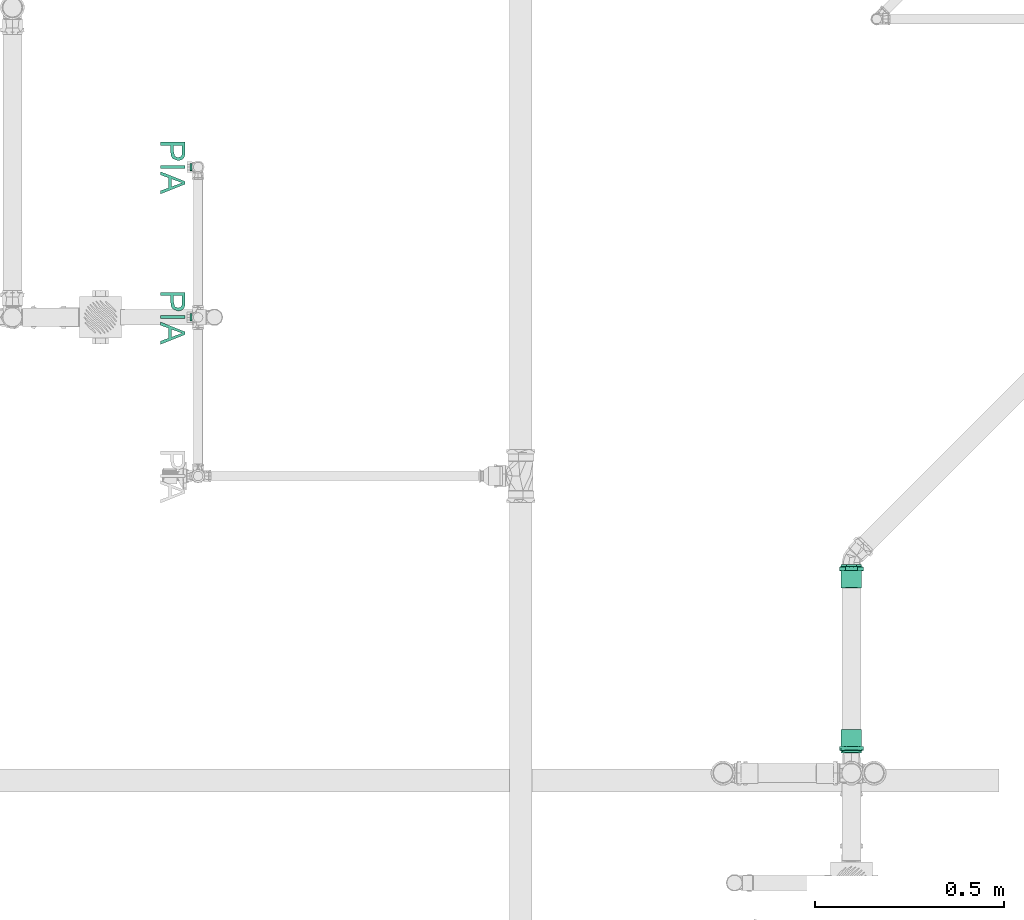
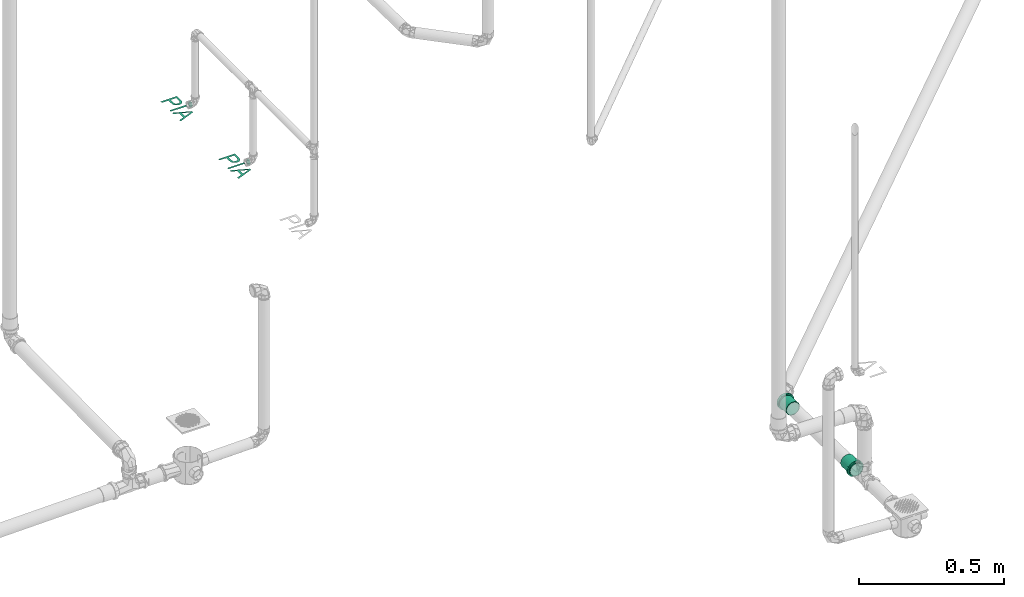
# One storey, part 128 of 589: 2 flow fittings, 2 flow terminals.
"""IFC2X3 building model written with IfcOpenShell, lengths in millimetres."""

from ifc_helpers import new_model, entity, si_unit, converted_unit, derived_unit, direction, frame, origin, place, context, subcontext, project, spatial, face_set, faceted_brep, surface_model, source, transform, mapped, material, type_object, type_shapes, element, save


model = new_model("IFC2X3")

# Units and contexts
model_context = context("Model", 3, precision=0.01, world=origin(), true_north=direction((6.123031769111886e-17, 1.0)))
body_context = subcontext(model_context, "Body", "Model", "MODEL_VIEW")
ifc_project = project(units=[si_unit("LENGTHUNIT", "METRE", prefix="MILLI"), si_unit("AREAUNIT", "SQUARE_METRE"), si_unit("VOLUMEUNIT", "CUBIC_METRE"), converted_unit("PLANEANGLEUNIT", "DEGREE", entity("IfcRatioMeasure", 0.017453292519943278), si_unit("PLANEANGLEUNIT", "RADIAN"), dimensions=[0, 0, 0, 0, 0, 0, 0]), si_unit("MASSUNIT", "GRAM", prefix="KILO"), derived_unit("MASSDENSITYUNIT", [(si_unit("MASSUNIT", "GRAM", prefix="KILO"), 1), (si_unit("LENGTHUNIT", "METRE"), -3)]), derived_unit("IONCONCENTRATIONUNIT", [(si_unit("MASSUNIT", "GRAM", prefix="KILO"), 1), (si_unit("LENGTHUNIT", "METRE"), -3)]), derived_unit("MOMENTOFINERTIAUNIT", [(si_unit("LENGTHUNIT", "METRE"), 4)]), si_unit("TIMEUNIT", "SECOND"), si_unit("FREQUENCYUNIT", "HERTZ"), si_unit("THERMODYNAMICTEMPERATUREUNIT", "DEGREE_CELSIUS"), derived_unit("THERMALTRANSMITTANCEUNIT", [(si_unit("MASSUNIT", "GRAM", prefix="KILO"), 1), (si_unit("THERMODYNAMICTEMPERATUREUNIT", "KELVIN"), -1), (si_unit("TIMEUNIT", "SECOND"), -3)]), derived_unit("THERMALCONDUCTANCEUNIT", [(si_unit("MASSUNIT", "GRAM", prefix="KILO"), 1), (si_unit("THERMODYNAMICTEMPERATUREUNIT", "KELVIN"), -1), (si_unit("TIMEUNIT", "SECOND"), -3), (si_unit("LENGTHUNIT", "METRE"), 1)]), derived_unit("VOLUMETRICFLOWRATEUNIT", [(si_unit("LENGTHUNIT", "METRE"), 3), (si_unit("TIMEUNIT", "SECOND"), -1)]), derived_unit("MASSFLOWRATEUNIT", [(si_unit("MASSUNIT", "GRAM", prefix="KILO"), 1), (si_unit("TIMEUNIT", "SECOND"), -1)]), derived_unit("ROTATIONALFREQUENCYUNIT", [(si_unit("TIMEUNIT", "SECOND"), -1)]), si_unit("ELECTRICCURRENTUNIT", "AMPERE"), si_unit("ELECTRICVOLTAGEUNIT", "VOLT"), si_unit("POWERUNIT", "WATT"), si_unit("FORCEUNIT", "NEWTON", prefix="KILO"), si_unit("ILLUMINANCEUNIT", "LUX"), si_unit("LUMINOUSFLUXUNIT", "LUMEN"), si_unit("LUMINOUSINTENSITYUNIT", "CANDELA"), derived_unit("USERDEFINED", [(si_unit("MASSUNIT", "GRAM", prefix="KILO"), -1), (si_unit("LENGTHUNIT", "METRE"), -2), (si_unit("TIMEUNIT", "SECOND"), 3), (si_unit("LUMINOUSFLUXUNIT", "LUMEN"), 1)]), derived_unit("USERDEFINED", [(si_unit("MASSUNIT", "GRAM", prefix="KILO"), 1), (si_unit("TIMEUNIT", "SECOND"), -3), (si_unit("LENGTHUNIT", "METRE"), 3), (si_unit("ELECTRICCURRENTUNIT", "AMPERE"), -2)]), derived_unit("SOUNDPOWERUNIT", [(si_unit("MASSUNIT", "GRAM", prefix="KILO"), 1), (si_unit("TIMEUNIT", "SECOND"), -3), (si_unit("LENGTHUNIT", "METRE"), 2)]), derived_unit("SOUNDPRESSUREUNIT", [(si_unit("MASSUNIT", "GRAM", prefix="KILO"), 1), (si_unit("LENGTHUNIT", "METRE"), -1), (si_unit("TIMEUNIT", "SECOND"), -2)]), derived_unit("LINEARVELOCITYUNIT", [(si_unit("LENGTHUNIT", "METRE"), 1), (si_unit("TIMEUNIT", "SECOND"), -1)]), si_unit("PRESSUREUNIT", "PASCAL"), derived_unit("USERDEFINED", [(si_unit("MASSUNIT", "GRAM", prefix="KILO"), 1), (si_unit("LENGTHUNIT", "METRE"), -2), (si_unit("TIMEUNIT", "SECOND"), -2)]), derived_unit("LINEARFORCEUNIT", [(si_unit("MASSUNIT", "GRAM", prefix="KILO"), 1), (si_unit("TIMEUNIT", "SECOND"), -2)]), derived_unit("PLANARFORCEUNIT", [(si_unit("MASSUNIT", "GRAM", prefix="KILO"), 1), (si_unit("LENGTHUNIT", "METRE"), -1), (si_unit("TIMEUNIT", "SECOND"), -2)]), derived_unit("SPECIFICHEATCAPACITYUNIT", [(si_unit("THERMODYNAMICTEMPERATUREUNIT", "KELVIN"), -1), (si_unit("LENGTHUNIT", "METRE"), 2), (si_unit("TIMEUNIT", "SECOND"), -2)]), derived_unit("HEATINGVALUEUNIT", [(si_unit("LENGTHUNIT", "METRE"), 2), (si_unit("TIMEUNIT", "SECOND"), -2)]), derived_unit("VAPORPERMEABILITYUNIT", [(si_unit("LENGTHUNIT", "METRE"), -1), (si_unit("TIMEUNIT", "SECOND"), 1)]), derived_unit("DYNAMICVISCOSITYUNIT", [(si_unit("MASSUNIT", "GRAM", prefix="KILO"), 1), (si_unit("TIMEUNIT", "SECOND"), -1), (si_unit("LENGTHUNIT", "METRE"), -1)]), derived_unit("THERMALEXPANSIONCOEFFICIENTUNIT", [(si_unit("THERMODYNAMICTEMPERATUREUNIT", "KELVIN"), -1)]), derived_unit("MODULUSOFELASTICITYUNIT", [(si_unit("MASSUNIT", "GRAM", prefix="KILO"), 1), (si_unit("LENGTHUNIT", "METRE"), -1), (si_unit("TIMEUNIT", "SECOND"), -2)]), derived_unit("ISOTHERMALMOISTURECAPACITYUNIT", [(si_unit("LENGTHUNIT", "METRE"), 3), (si_unit("MASSUNIT", "GRAM", prefix="KILO"), -1)]), derived_unit("MOISTUREDIFFUSIVITYUNIT", [(si_unit("TIMEUNIT", "SECOND"), -1), (si_unit("LENGTHUNIT", "METRE"), 2)])], contexts=[model_context])

# Site, building, storey
site_placement = place(None, origin())
site = spatial("IfcSite", under=ifc_project, at=site_placement, Name="Default", CompositionType="ELEMENT")
building_placement = place(site_placement, origin())
building = spatial("IfcBuilding", under=site, at=building_placement, CompositionType="ELEMENT")
storey_placement = place(building_placement, frame((0.0, 0.0, 100.0)))
storey = spatial("IfcBuildingStorey", under=building, at=storey_placement, Name="TÉRREO", CompositionType="ELEMENT", Elevation=100.0)

# Flow fittings
ifc_material_1 = material(Name="PVC Série Normal")
pipe_fitting_type = type_object("IfcPipeFittingType", Name="PVC Esgoto_Luva Simples para Conexão_Rodrigo MEP:Standard", PredefinedType="NOTDEFINED", material=ifc_material_1)
shared_shape_1 = source(origin(), body_context, "Body", "Brep", [
    faceted_brep([(16.599999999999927, 15.900000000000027, -27.53960784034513), (16.599999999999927, 22.485995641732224, -22.485995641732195), (16.599999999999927, 13.599999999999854, -23.555890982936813), (16.599999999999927, 7.039878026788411, -26.273182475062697), (16.599999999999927, 8.2304456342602, -30.71644127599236), (16.599999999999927, 19.233304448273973, -19.233304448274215), (16.599999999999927, 27.539607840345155, -15.899999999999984), (16.599999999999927, 23.55589098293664, -13.600000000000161), (16.599999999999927, 26.273182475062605, -7.03987802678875), (16.599999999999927, 30.716441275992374, -8.230445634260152), (16.599999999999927, 27.2, 0.0), (16.599999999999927, 31.8, 0.0), (16.599999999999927, 26.273182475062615, 7.0398780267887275), (16.599999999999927, 30.71644127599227, 8.23044563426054), (16.599999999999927, 23.555890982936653, 13.60000000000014), (16.599999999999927, 27.539607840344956, 15.900000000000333), (16.599999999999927, 19.233304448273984, 19.2333044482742), (16.599999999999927, 22.485995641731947, 22.48599564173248), (16.599999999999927, 13.599999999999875, 23.555890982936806), (16.599999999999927, 15.899999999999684, 27.53960784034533), (16.599999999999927, 7.039878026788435, 26.27318247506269), (16.599999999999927, 8.230445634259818, 30.716441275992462), (16.599999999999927, 0.0, 27.2), (16.599999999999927, 0.0, 31.8), (16.599999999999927, -7.039878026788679, 26.273182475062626), (16.599999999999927, -8.230445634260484, 30.716441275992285), (16.599999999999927, -13.600000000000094, 23.555890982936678), (16.599999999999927, -15.900000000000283, 27.53960784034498), (16.599999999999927, -19.23330444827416, 19.233304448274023), (16.599999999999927, -22.485995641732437, 22.48599564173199), (16.599999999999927, -23.55589098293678, 13.59999999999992), (16.599999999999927, -27.539607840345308, 15.899999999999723), (16.599999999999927, -30.71644127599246, 8.230445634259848), (16.599999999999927, -26.273182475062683, 7.039878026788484), (16.599999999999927, -31.8, 0.0), (16.599999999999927, -27.2, 0.0), (16.599999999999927, -30.71644127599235, -8.23044563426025), (16.599999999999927, -26.273182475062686, -7.03987802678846), (16.599999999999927, -27.53960784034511, -15.90000000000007), (16.599999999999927, -23.55589098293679, -13.599999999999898), (16.599999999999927, -22.485995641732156, -22.485995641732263), (16.599999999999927, -19.233304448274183, -19.233304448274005), (16.599999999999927, -15.899999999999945, -27.53960784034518), (16.599999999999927, -13.600000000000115, -23.555890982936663), (16.599999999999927, -8.230445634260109, -30.716441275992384), (16.599999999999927, -7.039878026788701, -26.273182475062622), (16.599999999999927, 0.0, -31.8), (16.599999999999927, 0.0, -27.2), (6.500000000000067, -10.708108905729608, 29.429219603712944), (6.500000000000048, -24.359073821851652, 20.44200387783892), (6.500000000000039, -27.120498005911, 15.6595386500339), (6.50000000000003, -29.881922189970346, 10.877073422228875), (6.500000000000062, -15.89769721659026, 27.540937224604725), (6.500000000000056, -20.128385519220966, 23.991470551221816), (6.50000000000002, -30.840961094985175, 5.438536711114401), (6.5000000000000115, -31.8, 0.0), (6.50000000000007, -5.518520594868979, 31.317501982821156), (6.500000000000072, 5.526376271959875, 31.316116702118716), (6.50000000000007, 0.00392783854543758, 31.316809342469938), (6.500000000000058, 20.134403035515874, 23.986420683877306), (6.500000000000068, 10.715490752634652, 29.42653259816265), (6.500000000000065, 15.904605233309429, 27.536948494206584), (6.500000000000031, 29.8846497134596, 10.869577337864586), (6.500000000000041, 27.12442527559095, 15.652735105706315), (6.5000000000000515, 24.364200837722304, 20.435892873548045), (6.5000000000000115, 31.8, 0.0), (6.499999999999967, 24.364200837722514, -20.435892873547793), (6.499999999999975, 27.12442527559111, -15.652735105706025), (6.499999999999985, 29.884649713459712, -10.869577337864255), (6.4999999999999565, 15.904605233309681, -27.53694849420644), (6.499999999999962, 20.134403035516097, -23.986420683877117), (6.499999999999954, 10.715490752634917, -29.42653259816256), (6.499999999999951, 5.526376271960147, -31.31611670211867), (6.499999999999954, -5.518520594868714, -31.317501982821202), (6.499999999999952, 0.003927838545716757, -31.316809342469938), (6.499999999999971, -20.128385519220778, -23.99147055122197), (6.499999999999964, -15.897697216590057, -27.54093722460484), (6.499999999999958, -10.70810890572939, -29.42921960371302), (6.499999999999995, -29.881922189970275, -10.877073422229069), (6.499999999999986, -27.12049800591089, -15.659538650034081), (6.499999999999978, -24.359073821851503, -20.442003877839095), (6.500000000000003, -30.840961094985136, -5.438536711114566), (6.499999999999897, -30.696173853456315, -6.259599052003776), (62.0, 13.600000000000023, -23.55589098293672), (62.0, 19.233304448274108, -19.23330444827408), (62.0, 12.499999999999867, -21.650635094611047), (62.0, 6.470476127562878, -24.14814565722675), (62.0, 7.039878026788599, -26.273182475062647), (62.0, 17.677669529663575, -17.677669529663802), (62.0, 23.55589098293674, -13.599999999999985), (62.0, 21.65063509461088, -12.50000000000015), (62.0, 24.148145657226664, -6.470476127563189), (62.0, 26.27318247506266, -7.039878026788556), (62.0, 25.0, 0.0), (62.0, 27.2, 0.0), (62.0, 24.148145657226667, 6.4704761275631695), (62.0, 26.273182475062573, 7.03987802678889), (62.0, 21.650635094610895, 12.500000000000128), (62.0, 23.555890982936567, 13.600000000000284), (62.0, 17.67766952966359, 17.67766952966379), (62.0, 19.233304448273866, 19.233304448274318), (62.0, 12.499999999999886, 21.650635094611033), (62.0, 13.59999999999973, 23.55589098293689), (62.0, 6.4704761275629, 24.14814565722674), (62.0, 7.039878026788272, 26.273182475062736), (62.0, 0.0, 25.0), (62.0, 0.0, 27.2), (62.0, -6.470476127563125, 24.148145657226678), (62.0, -7.039878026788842, 26.273182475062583), (62.0, -12.500000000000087, 21.650635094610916), (62.0, -13.600000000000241, 23.555890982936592), (62.0, -17.677669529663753, 17.677669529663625), (62.0, -19.233304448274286, 19.2333044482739), (62.0, -21.65063509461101, 12.499999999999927), (62.0, -23.555890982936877, 13.599999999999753), (62.0, -26.27318247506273, 7.039878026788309), (62.0, -24.14814565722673, 6.470476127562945), (62.0, -27.2, 0.0), (62.0, -25.0, 0.0), (62.0, -26.27318247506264, -7.0398780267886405), (62.0, -24.148145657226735, -6.470476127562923), (62.0, -23.5558909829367, -13.600000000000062), (62.0, -21.650635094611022, -12.499999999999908), (62.0, -19.233304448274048, -19.233304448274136), (62.0, -17.67766952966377, -17.677669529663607), (62.0, -13.599999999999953, -23.555890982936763), (62.0, -12.500000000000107, -21.650635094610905), (62.0, -7.039878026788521, -26.27318247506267), (62.0, -6.470476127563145, -24.148145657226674), (62.0, 0.0, -27.2), (62.0, 0.0, -25.0), (0.0, 12.499999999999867, -21.650635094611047), (0.0, 19.233304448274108, -19.23330444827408), (0.0, 13.600000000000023, -23.55589098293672), (0.0, 6.470476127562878, -24.14814565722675), (0.0, 17.677669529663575, -17.677669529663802), (0.0, 23.55589098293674, -13.599999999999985), (0.0, 21.65063509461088, -12.50000000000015), (0.0, 24.148145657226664, -6.470476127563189), (0.0, 26.27318247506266, -7.039878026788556), (0.0, 25.0, 0.0), (0.0, 27.2, 0.0), (0.0, 24.148145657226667, 6.4704761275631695), (0.0, 26.273182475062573, 7.03987802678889), (0.0, 21.650635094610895, 12.500000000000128), (0.0, 23.555890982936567, 13.600000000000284), (0.0, 17.67766952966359, 17.67766952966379), (0.0, 19.233304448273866, 19.233304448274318), (0.0, 12.499999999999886, 21.650635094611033), (0.0, 13.59999999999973, 23.55589098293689), (0.0, 6.4704761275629, 24.14814565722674), (0.0, 7.039878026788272, 26.273182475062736), (0.0, 0.0, 25.0), (0.0, 0.0, 27.2), (0.0, -6.470476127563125, 24.148145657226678), (0.0, -7.039878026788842, 26.273182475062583), (0.0, -12.500000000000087, 21.650635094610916), (0.0, -13.600000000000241, 23.555890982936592), (0.0, -17.677669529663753, 17.677669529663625), (0.0, -19.233304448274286, 19.2333044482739), (0.0, -21.65063509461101, 12.499999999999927), (0.0, -23.555890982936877, 13.599999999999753), (0.0, -26.27318247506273, 7.039878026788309), (0.0, -24.14814565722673, 6.470476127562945), (0.0, -27.2, 0.0), (0.0, -25.0, 0.0), (0.0, -26.27318247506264, -7.0398780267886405), (0.0, -24.148145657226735, -6.470476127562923), (0.0, -23.5558909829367, -13.600000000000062), (0.0, -21.650635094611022, -12.499999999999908), (0.0, -19.233304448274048, -19.233304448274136), (0.0, -17.67766952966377, -17.677669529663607), (0.0, -13.599999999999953, -23.555890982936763), (0.0, -12.500000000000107, -21.650635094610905), (0.0, -7.039878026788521, -26.27318247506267), (0.0, -6.470476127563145, -24.148145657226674), (0.0, 0.0, -27.2), (0.0, 0.0, -25.0), (0.0, 7.039878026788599, -26.273182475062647), (5.300000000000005, -26.37968999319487, 4.651830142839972), (5.299999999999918, -26.25584678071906, 5.354122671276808), (5.300000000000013, -25.559379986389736, 9.303660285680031), (5.300000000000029, -20.835434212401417, 17.48498444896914), (5.300000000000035, -17.216732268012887, 20.521006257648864), (5.300000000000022, -23.19740709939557, 13.394322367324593), (5.3000000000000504, -4.720244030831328, 26.787297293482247), (5.300000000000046, -9.15913717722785, 25.172162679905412), (5.299999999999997, -27.2, 0.0), (5.300000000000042, -13.598030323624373, 23.557028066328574), (5.300000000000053, 9.165451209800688, 25.169864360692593), (5.300000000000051, 13.603939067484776, 23.55361632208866), (5.300000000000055, 4.7269633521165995, 26.786112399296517), (5.300000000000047, 17.221879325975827, 20.516686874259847), (5.300000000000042, 20.839819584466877, 17.479757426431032), (5.3000000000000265, 25.56171296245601, 9.297248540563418), (5.299999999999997, 27.2, 0.0), (5.3000000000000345, 23.20076627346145, 13.388502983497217), (5.300000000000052, 0.003359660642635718, 26.786704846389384), (5.299999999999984, 25.56171296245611, -9.29724854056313), (5.299999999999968, 20.839819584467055, -17.47975742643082), (5.2999999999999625, 17.22187932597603, -20.516686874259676), (5.299999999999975, 23.200766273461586, -13.388502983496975), (5.299999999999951, 4.726963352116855, -26.78611239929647), (5.2999999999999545, 9.165451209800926, -25.169864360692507), (5.299999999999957, 13.603939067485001, -23.553616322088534), (5.29999999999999, -26.379689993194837, -4.651830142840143), (5.299999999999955, -9.159137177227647, -25.17216267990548), (5.299999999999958, -13.5980303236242, -23.55702806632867), (5.299999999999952, -4.720244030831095, -26.787297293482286), (5.299999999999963, -17.216732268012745, -20.52100625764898), (5.299999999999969, -20.83543421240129, -17.484984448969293), (5.299999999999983, -25.559379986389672, -9.303660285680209), (5.299999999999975, -23.197407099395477, -13.394322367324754), (5.299999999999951, 0.003359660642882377, -26.78670484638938), (39.0, -25.0, 0.0), (39.0, 25.0, 0.0)], [[[0, 1, 2]], [[0, 2, 3]], [[3, 4, 0]], [[2, 1, 5]], [[6, 5, 1]], [[7, 5, 6]], [[8, 7, 6]], [[8, 6, 9]], [[8, 9, 10]], [[10, 9, 11]], [[12, 10, 11]], [[12, 11, 13]], [[14, 12, 13]], [[14, 13, 15]], [[16, 14, 15]], [[15, 17, 16]], [[17, 18, 16]], [[17, 19, 18]], [[18, 19, 20]], [[21, 20, 19]], [[20, 21, 22]], [[22, 21, 23]], [[22, 23, 24]], [[24, 23, 25]], [[24, 25, 26]], [[27, 26, 25]], [[27, 28, 26]], [[28, 27, 29]], [[30, 28, 29]], [[31, 30, 29]], [[32, 30, 31]], [[33, 30, 32]], [[33, 32, 34]], [[35, 33, 34]], [[36, 35, 34]], [[36, 37, 35]], [[37, 36, 38]], [[39, 37, 38]], [[39, 38, 40]], [[39, 40, 41]], [[40, 42, 41]], [[41, 42, 43]], [[43, 42, 44]], [[44, 45, 43]], [[46, 45, 44]], [[4, 47, 46]], [[46, 47, 45]], [[4, 3, 47]], [[48, 27, 25]], [[31, 29, 49]], [[31, 49, 50, 51]], [[52, 53, 27]], [[32, 51, 54]], [[54, 55, 34]], [[54, 34, 32]], [[25, 56, 48]], [[49, 29, 53]], [[23, 57, 58, 56]], [[59, 19, 17]], [[27, 53, 29]], [[48, 52, 27]], [[31, 51, 32]], [[57, 23, 21]], [[60, 19, 61]], [[15, 62, 63, 64]], [[19, 60, 21]], [[15, 13, 62]], [[17, 64, 59]], [[57, 21, 60]], [[23, 56, 25]], [[15, 64, 17]], [[13, 65, 62]], [[13, 11, 65]], [[59, 61, 19]], [[65, 11, 9]], [[6, 1, 66]], [[6, 66, 67, 68]], [[69, 70, 0]], [[68, 65, 9]], [[71, 69, 0]], [[71, 0, 4]], [[4, 72, 71]], [[66, 1, 70]], [[46, 73, 74, 72]], [[75, 76, 42]], [[0, 70, 1]], [[75, 42, 40]], [[6, 68, 9]], [[73, 46, 44]], [[77, 42, 76]], [[38, 78, 79, 80]], [[42, 77, 44]], [[38, 36, 78]], [[40, 80, 75]], [[73, 44, 77]], [[46, 72, 4]], [[38, 80, 40]], [[36, 81, 82, 78]], [[55, 81, 34]], [[34, 81, 36]], [[83, 84, 85]], [[83, 85, 86]], [[86, 87, 83]], [[85, 84, 88]], [[89, 88, 84]], [[88, 89, 90]], [[90, 89, 91]], [[92, 91, 89]], [[92, 93, 91]], [[93, 92, 94]], [[95, 93, 94]], [[94, 96, 95]], [[95, 96, 97]], [[98, 97, 96]], [[97, 98, 99]], [[99, 98, 100]], [[101, 99, 100]], [[100, 102, 101]], [[101, 102, 103]], [[104, 103, 102]], [[103, 104, 105]], [[105, 104, 106]], [[105, 106, 107]], [[107, 106, 108]], [[107, 108, 109]], [[110, 109, 108]], [[110, 111, 109]], [[111, 110, 112]], [[112, 113, 111]], [[114, 113, 112]], [[113, 114, 115]], [[115, 116, 113]], [[117, 116, 115]], [[117, 118, 116]], [[119, 118, 117]], [[119, 120, 118]], [[120, 119, 121]], [[121, 122, 120]], [[122, 121, 123]], [[122, 123, 124]], [[123, 125, 124]], [[124, 125, 126]], [[126, 125, 127]], [[127, 128, 126]], [[129, 128, 127]], [[87, 130, 129]], [[129, 130, 128]], [[87, 86, 130]], [[131, 132, 133]], [[134, 131, 133]], [[135, 132, 131]], [[132, 135, 136]], [[137, 136, 135]], [[138, 136, 137]], [[136, 138, 139]], [[138, 140, 139]], [[141, 139, 140]], [[141, 140, 142]], [[142, 143, 141]], [[144, 143, 142]], [[143, 144, 145]], [[146, 145, 144]], [[147, 145, 146]], [[147, 146, 148]], [[148, 149, 147]], [[150, 149, 148]], [[149, 150, 151]], [[152, 151, 150]], [[153, 151, 152]], [[154, 153, 152]], [[155, 153, 154]], [[156, 155, 154]], [[155, 156, 157]], [[156, 158, 157]], [[159, 157, 158]], [[158, 160, 159]], [[159, 160, 161]], [[162, 161, 160]], [[160, 163, 162]], [[162, 163, 164]], [[163, 165, 164]], [[164, 165, 166]], [[165, 167, 166]], [[168, 166, 167]], [[167, 169, 168]], [[170, 168, 169]], [[171, 170, 169]], [[171, 172, 170]], [[173, 172, 171]], [[174, 172, 173]], [[173, 175, 174]], [[174, 175, 176]], [[175, 177, 176]], [[177, 134, 178]], [[176, 177, 178]], [[133, 178, 134]], [[162, 179, 180, 181]], [[159, 182, 183]], [[182, 161, 181, 184]], [[185, 155, 186]], [[161, 162, 181]], [[187, 179, 164]], [[183, 188, 157]], [[183, 157, 159]], [[161, 182, 159]], [[189, 190, 149]], [[189, 149, 151]], [[157, 188, 186]], [[157, 186, 155]], [[153, 155, 185]], [[164, 179, 162]], [[151, 191, 189]], [[147, 192, 193]], [[143, 194, 195]], [[194, 145, 193, 196]], [[143, 195, 141]], [[10, 12, 96, 94]], [[149, 192, 147]], [[153, 185, 197, 191]], [[153, 191, 151]], [[145, 147, 193]], [[190, 192, 149]], [[145, 194, 143]], [[139, 195, 198]], [[132, 199, 200]], [[199, 136, 198, 201]], [[202, 178, 203]], [[136, 139, 198]], [[139, 141, 195]], [[92, 8, 10, 94]], [[133, 203, 178]], [[200, 204, 133]], [[136, 199, 132]], [[205, 164, 166]], [[206, 207, 172]], [[133, 204, 203]], [[206, 172, 174]], [[176, 178, 202]], [[200, 133, 132]], [[174, 208, 206]], [[170, 209, 210]], [[166, 211, 205]], [[211, 168, 210, 212]], [[168, 211, 166]], [[172, 209, 170]], [[176, 202, 213, 208]], [[176, 208, 174]], [[168, 170, 210]], [[207, 209, 172]], [[205, 187, 164]], [[116, 118, 214, 165, 163]], [[156, 109, 111, 158]], [[111, 113, 160, 158]], [[113, 116, 163, 160]], [[107, 109, 156, 154]], [[154, 152, 105, 107]], [[103, 105, 152, 150]], [[103, 150, 148, 101]], [[142, 95, 97, 144]], [[97, 99, 146, 144]], [[99, 101, 148, 146]], [[93, 95, 142, 140, 215]], [[215, 140, 138, 91, 93]], [[135, 131, 85, 88]], [[90, 91, 138, 137]], [[90, 137, 135, 88]], [[86, 85, 131, 134]], [[134, 177, 130, 86]], [[128, 130, 177, 175]], [[128, 175, 173, 126]], [[167, 120, 122, 169]], [[122, 124, 171, 169]], [[124, 126, 173, 171]], [[118, 120, 167, 165, 214]], [[211, 78, 82, 81, 55, 187, 205]], [[79, 78, 211, 212, 210, 80]], [[75, 80, 210, 209, 207, 76]], [[207, 206, 208, 73, 77, 76]], [[213, 202, 72, 74, 73, 208]], [[203, 204, 69, 71, 72, 202]], [[198, 195, 65, 68]], [[199, 201, 198, 68, 67, 66]], [[204, 200, 199, 66, 70, 69]], [[195, 194, 62, 65]], [[197, 185, 56, 58, 57, 191]], [[63, 62, 194, 196, 193, 64]], [[57, 60, 61, 190, 189, 191]], [[193, 192, 190, 61, 59, 64]], [[48, 56, 185, 186, 188, 52]], [[187, 55, 54, 51, 181, 180, 179]], [[182, 184, 181, 51, 50, 49]], [[188, 183, 182, 49, 53, 52]], [[30, 33, 115, 114]], [[117, 115, 33, 35]], [[26, 28, 112, 110]], [[114, 112, 28, 30]], [[24, 26, 110, 108]], [[108, 106, 22, 24]], [[18, 20, 104, 102]], [[100, 16, 18, 102]], [[12, 14, 98, 96]], [[100, 98, 14, 16]], [[104, 20, 22, 106]], [[89, 7, 8, 92]], [[83, 87, 3, 2]], [[7, 89, 84, 5]], [[83, 2, 5, 84]], [[87, 129, 47, 3]], [[43, 45, 127, 125]], [[123, 41, 43, 125]], [[37, 39, 121, 119]], [[123, 121, 39, 41]], [[35, 37, 119, 117]], [[127, 45, 47, 129]]]),
])
type_shapes(pipe_fitting_type, [shared_shape_1])
for number, where, z_axis, x_axis, name in (
    (1, (4920.934778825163, 43.06394788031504, -214.31410193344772), (0.008282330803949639, 0.019995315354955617, 0.9997657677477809), (0.0, -0.9998000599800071, 0.01999600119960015), "PVC Esgoto_Luva Simples para Conexão_Rodrigo MEP:Standard"),
    (2, (4920.934778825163, -455.7423030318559, -204.3379769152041), (1.0, 0.0, 0.0), (0.0, 0.999800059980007, -0.01999600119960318), "PVC Esgoto_Luva Simples para Conexão_Rodrigo MEP:Standard"),
):
    element("IfcFlowFitting", number, at=place(storey_placement, frame(where, z_axis=z_axis, x_axis=x_axis)), inside=storey, type_object=pipe_fitting_type, material=ifc_material_1, Name=name, ObjectType="PVC Esgoto_Luva Simples para Conexão_Rodrigo MEP:Standard", context=body_context, shape_type="MappedRepresentation", body=[
        mapped(shared_shape_1, transform((0.0, 0.0, 0.0), scale=1.0)),
    ])

# Flow terminals
ifc_material_2 = material(Name="<Unnamed>")
distribution_element_type = type_object("IfcDistributionElementType", Name="Hidráulica_Ponto de Utilização_Uso Provável_Rodrigo MEP:Pia com torneira ou misturador(Peso 0,7)", material=ifc_material_2)
shared_shape_2 = source(origin(), body_context, "Body", "SurfaceModel", [
    surface_model("IfcFaceBasedSurfaceModel", [(0.0, 0.0, 11.595272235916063), (8.162075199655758, 0.0, 11.595272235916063), (8.162075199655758, 26.52674439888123, 11.595272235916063), (24.757232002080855, 26.52674439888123, 11.595272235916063), (36.352719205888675, 27.96945495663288, 11.595272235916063), (43.7197094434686, 32.29758662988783, 11.595272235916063), (48.97245119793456, 46.405861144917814, 11.595272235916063), (47.02758171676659, 55.30921856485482, 11.595272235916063), (41.88643083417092, 61.62207360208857, 11.595272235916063), (33.95550815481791, 64.67488102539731, 11.595272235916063), (24.199277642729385, 65.2966015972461, 11.595272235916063), (0.0, 65.2966015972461, 11.595272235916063), (8.162075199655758, 34.68881959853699, 11.595272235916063), (8.162075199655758, 57.13452639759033, 11.595272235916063), (25.044179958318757, 57.13452639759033, 11.595272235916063), (33.20625515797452, 56.57657203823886, 11.595272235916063), (38.71406176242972, 52.878131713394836, 11.595272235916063), (40.81037599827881, 46.11891318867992, 11.595272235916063), (37.25540965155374, 37.685831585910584, 11.595272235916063), (25.235478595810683, 34.68881959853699, 11.595272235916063), (61.21556399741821, 0.0, 11.595272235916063), (69.37763919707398, 0.0, 11.595272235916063), (69.37763919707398, 65.2966015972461, 11.595272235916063), (61.21556399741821, 65.2966015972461, 11.595272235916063), (78.0976687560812, 0.0, 11.595272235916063), (86.72204899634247, 0.0, 11.595272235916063), (94.18269585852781, 20.405187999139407, 11.595272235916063), (121.07609597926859, 20.405187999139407, 11.595272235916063), (128.55268439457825, 0.0, 11.595272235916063), (137.17706463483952, 0.0, 11.595272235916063), (111.11262527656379, 65.2966015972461, 11.595272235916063), (104.16210811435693, 65.2966015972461, 11.595272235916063), (97.17970784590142, 28.567263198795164, 11.595272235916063), (103.5722706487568, 46.02326386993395, 11.595272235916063), (107.63736669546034, 57.13452639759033, 11.595272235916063), (112.21259244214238, 44.62040719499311, 11.595272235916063), (118.0950255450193, 28.567263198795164, 11.595272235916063), (55.806731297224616, 78.06704158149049, 11.595272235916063), (56.14747303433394, 78.06704158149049, 14.18346268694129), (57.14647725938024, 78.06704158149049, 16.595272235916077), (58.735663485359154, 78.06704158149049, 18.666340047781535), (60.80673129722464, 78.06704158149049, 20.255526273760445), (63.218540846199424, 78.06704158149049, 21.254530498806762), (65.80673129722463, 78.06704158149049, 21.59527223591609), (68.39492174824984, 78.06704158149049, 21.254530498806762), (70.80673129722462, 78.06704158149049, 20.255526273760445), (72.87779910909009, 78.06704158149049, 18.666340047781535), (74.46698533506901, 78.06704158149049, 16.595272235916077), (75.4659895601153, 78.06704158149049, 14.18346268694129), (75.80673129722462, 78.06704158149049, 11.595272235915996), (75.46598956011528, 78.06704158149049, 9.007081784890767), (74.46698533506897, 78.06704158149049, 6.595272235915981), (72.87779910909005, 78.06704158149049, 4.524204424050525), (70.80673129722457, 78.06704158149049, 2.9350181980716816), (68.39492174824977, 78.06704158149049, 1.936013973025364), (65.80673129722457, 78.06704158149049, 1.5952722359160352), (63.218540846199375, 78.06704158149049, 1.936013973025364), (60.80673129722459, 78.06704158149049, 2.9350181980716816), (58.73566348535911, 78.06704158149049, 4.524204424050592), (57.14647725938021, 78.06704158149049, 6.595272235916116), (56.14747303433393, 78.06704158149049, 9.007081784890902), (55.806731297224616, 83.06704158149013, 11.595272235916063), (56.14747303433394, 83.06704158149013, 14.18346268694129), (57.14647725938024, 83.06704158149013, 16.595272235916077), (58.735663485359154, 83.06704158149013, 18.666340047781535), (60.80673129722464, 83.06704158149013, 20.255526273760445), (63.218540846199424, 83.06704158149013, 21.254530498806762), (65.80673129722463, 83.06704158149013, 21.59527223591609), (68.39492174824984, 83.06704158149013, 21.254530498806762), (70.80673129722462, 83.06704158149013, 20.255526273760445), (72.87779910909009, 83.06704158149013, 18.666340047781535), (74.46698533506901, 83.06704158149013, 16.595272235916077), (75.4659895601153, 83.06704158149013, 14.18346268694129), (75.80673129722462, 83.06704158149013, 11.595272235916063), (75.46598956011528, 83.06704158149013, 9.007081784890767), (74.46698533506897, 83.06704158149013, 6.595272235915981), (72.87779910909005, 83.06704158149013, 4.524204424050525), (70.80673129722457, 83.06704158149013, 2.9350181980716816), (68.39492174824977, 83.06704158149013, 1.936013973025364), (65.80673129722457, 83.06704158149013, 1.5952722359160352), (63.218540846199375, 83.06704158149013, 1.936013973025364), (60.80673129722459, 83.06704158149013, 2.9350181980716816), (58.73566348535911, 83.06704158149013, 4.524204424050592), (57.14647725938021, 83.06704158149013, 6.595272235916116), (56.14747303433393, 83.06704158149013, 9.007081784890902)], [face_set([[[0, 1, 2, 3, 4, 5, 6, 7, 8, 9, 10, 11], [12, 13, 14, 15, 16, 17, 18, 19]], [[20, 21, 22, 23]], [[24, 25, 26, 27, 28, 29, 30, 31], [32, 33, 34, 35, 36]]]), face_set([[[37, 38, 39, 40, 41, 42, 43, 44, 45, 46, 47, 48, 49, 50, 51, 52, 53, 54, 55, 56, 57, 58, 59, 60]], [[61, 62, 63, 64, 65, 66, 67, 68, 69, 70, 71, 72, 73, 74, 75, 76, 77, 78, 79, 80, 81, 82, 83, 84]], [[61, 84, 60, 37]], [[84, 83, 59, 60]], [[82, 81, 57, 58]], [[83, 82, 58, 59]], [[81, 80, 56, 57]], [[55, 56, 80, 79]], [[79, 78, 54, 55]], [[78, 77, 53, 54]], [[76, 75, 51, 52]], [[77, 76, 52, 53]], [[75, 74, 50, 51]], [[49, 50, 74, 73]], [[73, 72, 48, 49]], [[72, 71, 47, 48]], [[70, 69, 45, 46]], [[71, 70, 46, 47]], [[69, 68, 44, 45]], [[43, 44, 68, 67]], [[67, 66, 42, 43]], [[66, 65, 41, 42]], [[64, 63, 39, 40]], [[65, 64, 40, 41]], [[63, 62, 38, 39]], [[37, 38, 62, 61]]])]),
])
type_shapes(distribution_element_type, [shared_shape_2])
for number, where, z_axis, x_axis, name in (
    (3, (3091.8127557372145, 1161.2199195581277, 988.4047277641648), (0.0, 0.0, 1.0), (0.0, -1.0, 0.0), "Hidráulica_Ponto de Utilização_Uso Provável_Rodrigo MEP:Pia com torneira ou misturador(Peso 0,7)"),
    (4, (3091.8127557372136, 763.1248603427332, 988.4047277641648), (0.0, 0.0, 1.0), (0.0, -1.0, 0.0), "Hidráulica_Ponto de Utilização_Uso Provável_Rodrigo MEP:Pia com torneira ou misturador(Peso 0,7)"),
):
    element("IfcFlowTerminal", number, at=place(storey_placement, frame(where, z_axis=z_axis, x_axis=x_axis)), inside=storey, type_object=distribution_element_type, material=ifc_material_2, Name=name, ObjectType="Hidráulica_Ponto de Utilização_Uso Provável_Rodrigo MEP:Pia com torneira ou misturador(Peso 0,7)", context=body_context, shape_type="MappedRepresentation", body=[
        mapped(shared_shape_2, transform((0.0, 0.0, 0.0), scale=1.0)),
    ])

save(model, "model.ifc")
